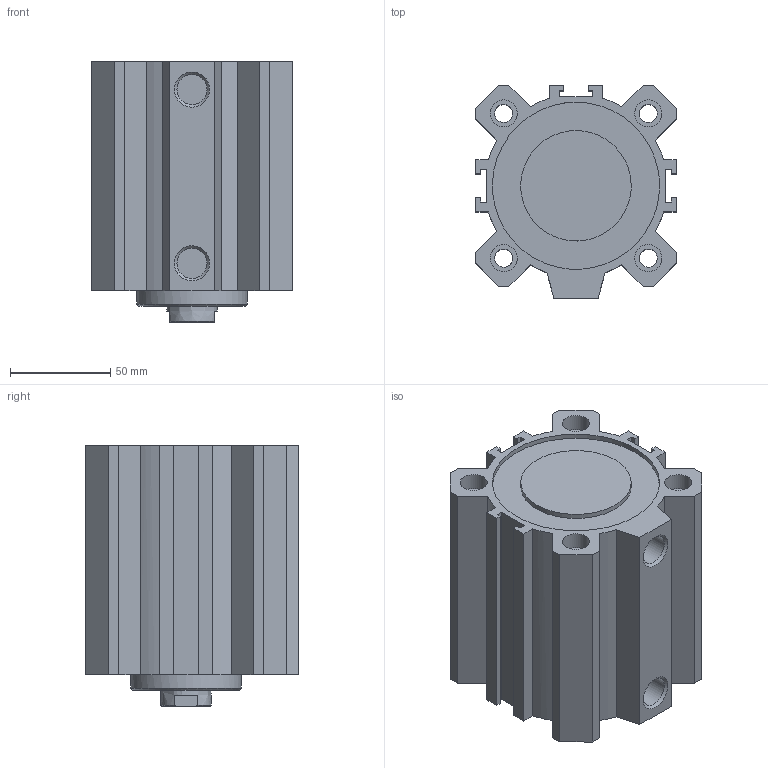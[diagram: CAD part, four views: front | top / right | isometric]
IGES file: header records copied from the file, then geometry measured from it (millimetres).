
Global section: file name: 1511_80_0065; native system: Autodesk Inventor 2014; preprocessor: unknown; author: A. Manieri; date: 20160824.142235; units: millimetre
Bounding box: 100 x 106 x 129.5 mm (x, y, z)
Volume: 642267.7 mm3; surface area: 149068.1 mm2
Topology: 2 solids, 2 shells, 119 faces, 307 edges, 210 vertices
Faces by surface type: bspline 119
